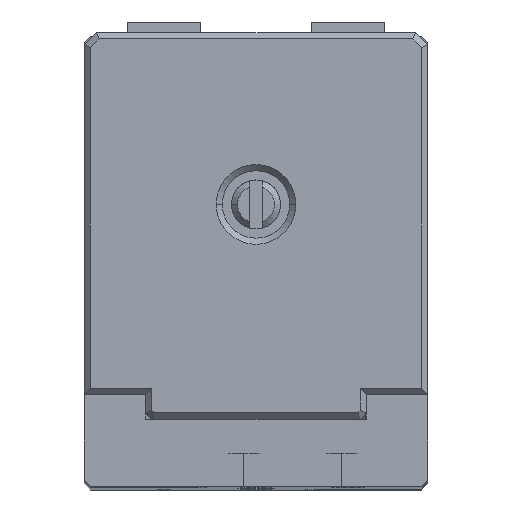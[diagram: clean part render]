
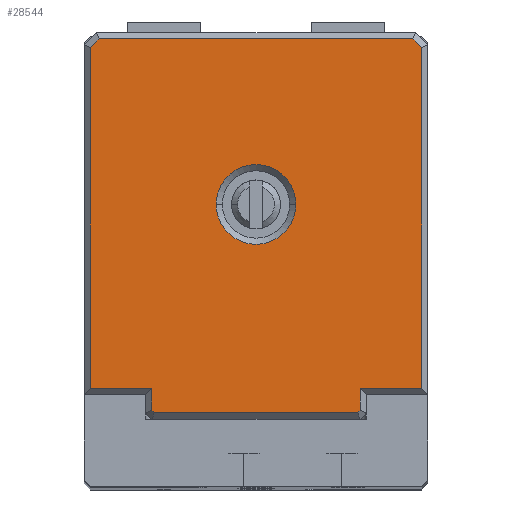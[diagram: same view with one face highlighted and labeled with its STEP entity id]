
A CAD part, top view. The second image highlights one B-rep face of the part: STEP entity #28544.
In plain terms, the highlighted planar face has unit normal (0, 0, 1).
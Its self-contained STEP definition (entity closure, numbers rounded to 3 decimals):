
#748 = VECTOR ( 'NONE', #6530, 1000. ) ;
#1059 = VECTOR ( 'NONE', #40779, 1000. ) ;
#1304 = CARTESIAN_POINT ( 'NONE',  ( 22.5, 0.707, 6. ) ) ;
#2452 = DIRECTION ( 'NONE',  ( 0., 0., -1. ) ) ;
#2699 = CARTESIAN_POINT ( 'NONE',  ( 22.5, 2., 6. ) ) ;
#2853 = LINE ( 'NONE', #46181, #27227 ) ;
#3302 = CARTESIAN_POINT ( 'NONE',  ( 1., 31., 6. ) ) ;
#3642 = DIRECTION ( 'NONE',  ( 1., 0., 0. ) ) ;
#3882 = VECTOR ( 'NONE', #27336, 1000. ) ;
#3940 = EDGE_LOOP ( 'NONE', ( #42401, #10188, #17061, #25813, #26103, #38460, #42420, #31818, #26353, #4797, #6810, #12516 ) ) ;
#4794 = LINE ( 'NONE', #20719, #35533 ) ;
#4797 = ORIENTED_EDGE ( 'NONE', *, *, #46244, .T. ) ;
#5363 = CARTESIAN_POINT ( 'NONE',  ( 0.5, 2.5, 6. ) ) ;
#6388 = VERTEX_POINT ( 'NONE', #45809 ) ;
#6530 = DIRECTION ( 'NONE',  ( 1., 0., 0. ) ) ;
#6627 = LINE ( 'NONE', #2699, #21079 ) ;
#6810 = ORIENTED_EDGE ( 'NONE', *, *, #35708, .T. ) ;
#7211 = EDGE_CURVE ( 'NONE', #40351, #31423, #46765, .T. ) ;
#7294 = LINE ( 'NONE', #31310, #748 ) ;
#8242 = DIRECTION ( 'NONE',  ( 0., -1., 0. ) ) ;
#8444 = CIRCLE ( 'NONE', #39296, 3.25 ) ;
#9880 = VERTEX_POINT ( 'NONE', #43820 ) ;
#10188 = ORIENTED_EDGE ( 'NONE', *, *, #7211, .T. ) ;
#10238 = DIRECTION ( 'NONE',  ( 1., 0., 0. ) ) ;
#11249 = PLANE ( 'NONE',  #20183 ) ;
#11369 = CARTESIAN_POINT ( 'NONE',  ( 5.5, 0.707, 6. ) ) ;
#11400 = CARTESIAN_POINT ( 'NONE',  ( 5.854, 0.354, 6. ) ) ;
#11820 = CARTESIAN_POINT ( 'NONE',  ( 1.207, 31., 6. ) ) ;
#11893 = VECTOR ( 'NONE', #21968, 1000. ) ;
#12112 = VERTEX_POINT ( 'NONE', #39504 ) ;
#12516 = ORIENTED_EDGE ( 'NONE', *, *, #30344, .T. ) ;
#12524 = CARTESIAN_POINT ( 'NONE',  ( 27.5, 2.5, 6. ) ) ;
#13220 = EDGE_CURVE ( 'NONE', #22895, #37320, #29769, .T. ) ;
#13578 = VERTEX_POINT ( 'NONE', #5363 ) ;
#13580 = VECTOR ( 'NONE', #44444, 1000. ) ;
#15150 = DIRECTION ( 'NONE',  ( 0., 0., 1. ) ) ;
#15306 = LINE ( 'NONE', #11400, #3882 ) ;
#15708 = EDGE_CURVE ( 'NONE', #31218, #44229, #2853, .T. ) ;
#16272 = LINE ( 'NONE', #43676, #13580 ) ;
#16360 = EDGE_CURVE ( 'NONE', #38644, #40351, #15306, .T. ) ;
#17061 = ORIENTED_EDGE ( 'NONE', *, *, #48372, .T. ) ;
#17352 = FACE_OUTER_BOUND ( 'NONE', #3940, .T. ) ;
#18367 = DIRECTION ( 'NONE',  ( 1., 0., 0. ) ) ;
#19202 = CARTESIAN_POINT ( 'NONE',  ( 5.707, 0.5, 6. ) ) ;
#19323 = CARTESIAN_POINT ( 'NONE',  ( 17.25, 17.5, 6. ) ) ;
#20183 = AXIS2_PLACEMENT_3D ( 'NONE', #45959, #15150, #50653 ) ;
#20719 = CARTESIAN_POINT ( 'NONE',  ( 22.646, 0.854, 6. ) ) ;
#20945 = EDGE_CURVE ( 'NONE', #9880, #31218, #7294, .T. ) ;
#21079 = VECTOR ( 'NONE', #50197, 1000. ) ;
#21968 = DIRECTION ( 'NONE',  ( -0.707, 0.707, 0. ) ) ;
#22027 = CARTESIAN_POINT ( 'NONE',  ( 5.5, 0.5, 6. ) ) ;
#22141 = VERTEX_POINT ( 'NONE', #26129 ) ;
#22272 = CARTESIAN_POINT ( 'NONE',  ( 22.5, 0.5, 6. ) ) ;
#22729 = FACE_BOUND ( 'NONE', #39586, .T. ) ;
#22895 = VERTEX_POINT ( 'NONE', #39077 ) ;
#23758 = CARTESIAN_POINT ( 'NONE',  ( 14., 17.5, 6. ) ) ;
#24425 = LINE ( 'NONE', #47909, #39588 ) ;
#25114 = CARTESIAN_POINT ( 'NONE',  ( 5., 2.5, 6. ) ) ;
#25813 = ORIENTED_EDGE ( 'NONE', *, *, #40832, .T. ) ;
#26103 = ORIENTED_EDGE ( 'NONE', *, *, #20945, .T. ) ;
#26129 = CARTESIAN_POINT ( 'NONE',  ( 5.5, 2.5, 6. ) ) ;
#26353 = ORIENTED_EDGE ( 'NONE', *, *, #41066, .T. ) ;
#26434 = VECTOR ( 'NONE', #33166, 1000. ) ;
#26961 = EDGE_CURVE ( 'NONE', #12112, #39196, #8444, .T. ) ;
#27227 = VECTOR ( 'NONE', #42023, 1000. ) ;
#27336 = DIRECTION ( 'NONE',  ( 0.707, -0.707, 0. ) ) ;
#28544 = ADVANCED_FACE ( 'NONE', ( #17352, #22729 ), #11249, .T. ) ;
#28667 = VECTOR ( 'NONE', #47051, 1000. ) ;
#29769 = LINE ( 'NONE', #3302, #26434 ) ;
#30344 = EDGE_CURVE ( 'NONE', #22141, #38644, #45766, .T. ) ;
#31218 = VERTEX_POINT ( 'NONE', #12524 ) ;
#31310 = CARTESIAN_POINT ( 'NONE',  ( 28., 2.5, 6. ) ) ;
#31354 = VERTEX_POINT ( 'NONE', #1304 ) ;
#31423 = VERTEX_POINT ( 'NONE', #33143 ) ;
#31818 = ORIENTED_EDGE ( 'NONE', *, *, #13220, .T. ) ;
#32177 = ORIENTED_EDGE ( 'NONE', *, *, #35550, .T. ) ;
#33143 = CARTESIAN_POINT ( 'NONE',  ( 22.293, 0.5, 6. ) ) ;
#33166 = DIRECTION ( 'NONE',  ( -1., 0., 0. ) ) ;
#35533 = VECTOR ( 'NONE', #46877, 1000. ) ;
#35550 = EDGE_CURVE ( 'NONE', #39196, #12112, #38502, .T. ) ;
#35708 = EDGE_CURVE ( 'NONE', #13578, #22141, #48851, .T. ) ;
#36025 = EDGE_CURVE ( 'NONE', #44229, #22895, #37621, .T. ) ;
#37320 = VERTEX_POINT ( 'NONE', #11820 ) ;
#37621 = LINE ( 'NONE', #37890, #11893 ) ;
#37890 = CARTESIAN_POINT ( 'NONE',  ( 26.646, 31.146, 6. ) ) ;
#38460 = ORIENTED_EDGE ( 'NONE', *, *, #15708, .T. ) ;
#38502 = CIRCLE ( 'NONE', #42849, 3.25 ) ;
#38644 = VERTEX_POINT ( 'NONE', #11369 ) ;
#39077 = CARTESIAN_POINT ( 'NONE',  ( 26.793, 31., 6. ) ) ;
#39196 = VERTEX_POINT ( 'NONE', #19323 ) ;
#39296 = AXIS2_PLACEMENT_3D ( 'NONE', #23758, #47747, #3642 ) ;
#39504 = CARTESIAN_POINT ( 'NONE',  ( 10.75, 17.5, 6. ) ) ;
#39586 = EDGE_LOOP ( 'NONE', ( #32177, #41654 ) ) ;
#39588 = VECTOR ( 'NONE', #8242, 1000. ) ;
#40351 = VERTEX_POINT ( 'NONE', #19202 ) ;
#40676 = VECTOR ( 'NONE', #10238, 1000. ) ;
#40779 = DIRECTION ( 'NONE',  ( 1., 0., 0. ) ) ;
#40832 = EDGE_CURVE ( 'NONE', #31354, #9880, #6627, .T. ) ;
#41066 = EDGE_CURVE ( 'NONE', #37320, #6388, #16272, .T. ) ;
#41654 = ORIENTED_EDGE ( 'NONE', *, *, #26961, .T. ) ;
#42023 = DIRECTION ( 'NONE',  ( 0., 1., 0. ) ) ;
#42200 = CARTESIAN_POINT ( 'NONE',  ( 27.5, 30.293, 6. ) ) ;
#42401 = ORIENTED_EDGE ( 'NONE', *, *, #16360, .T. ) ;
#42420 = ORIENTED_EDGE ( 'NONE', *, *, #36025, .T. ) ;
#42849 = AXIS2_PLACEMENT_3D ( 'NONE', #46279, #2452, #18367 ) ;
#43676 = CARTESIAN_POINT ( 'NONE',  ( 0.354, 30.146, 6. ) ) ;
#43820 = CARTESIAN_POINT ( 'NONE',  ( 22.5, 2.5, 6. ) ) ;
#44229 = VERTEX_POINT ( 'NONE', #42200 ) ;
#44444 = DIRECTION ( 'NONE',  ( -0.707, -0.707, 0. ) ) ;
#45766 = LINE ( 'NONE', #22027, #28667 ) ;
#45809 = CARTESIAN_POINT ( 'NONE',  ( 0.5, 30.293, 6. ) ) ;
#45959 = CARTESIAN_POINT ( 'NONE',  ( 0., 0., 6. ) ) ;
#46181 = CARTESIAN_POINT ( 'NONE',  ( 27.5, 30.5, 6. ) ) ;
#46244 = EDGE_CURVE ( 'NONE', #6388, #13578, #24425, .T. ) ;
#46279 = CARTESIAN_POINT ( 'NONE',  ( 14., 17.5, 6. ) ) ;
#46765 = LINE ( 'NONE', #22272, #40676 ) ;
#46877 = DIRECTION ( 'NONE',  ( 0.707, 0.707, 0. ) ) ;
#47051 = DIRECTION ( 'NONE',  ( 0., -1., 0. ) ) ;
#47747 = DIRECTION ( 'NONE',  ( 0., 0., -1. ) ) ;
#47909 = CARTESIAN_POINT ( 'NONE',  ( 0.5, 2., 6. ) ) ;
#48372 = EDGE_CURVE ( 'NONE', #31423, #31354, #4794, .T. ) ;
#48851 = LINE ( 'NONE', #25114, #1059 ) ;
#50197 = DIRECTION ( 'NONE',  ( 0., 1., 0. ) ) ;
#50653 = DIRECTION ( 'NONE',  ( 1., 0., 0. ) ) ;
